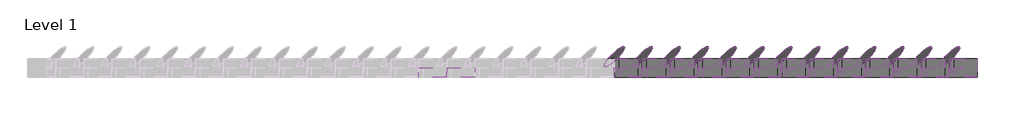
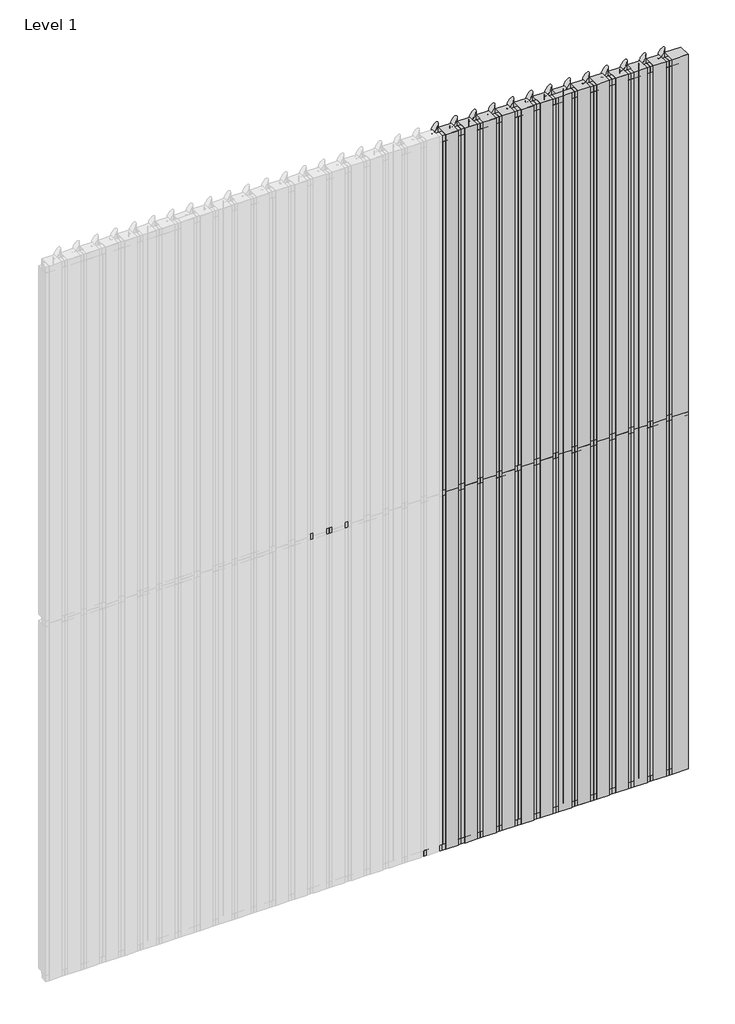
# One storey, part 3 of 3: 68 members, 52 plates.
"""IFC4 building model written with IfcOpenShell, lengths in millimetres."""

from ifc_helpers import new_model, si_unit, origin, place, context, project, spatial, transform, mapped, element, save
from components import rectangular_mullion_37c1fa86, rectangular_mullion_64cc6fdd, rectangular_mullion_6265e8b1, rectangular_mullion_eb4a5411, empty_system_panel_empty_d66da160, empty_system_panel_empty_f8daaecc, empty_system_panel_empty_64907904

model = new_model("IFC4")

# Units and contexts
model_context = context("Model", 3, world=origin())
ifc_project = project(units=[si_unit("LENGTHUNIT", "METRE", prefix="MILLI")], contexts=[model_context])

# Site, building, storey
site = spatial("IfcSite", under=ifc_project)
building = spatial("IfcBuilding", under=site)
storey = spatial("IfcBuildingStorey", under=building, Name="Level 1", Elevation=0.0)

# Members
placement = place(None, origin())
rectangular_mullion_shape = rectangular_mullion_37c1fa86(model_context)
element("IfcMember", 1, ObjectType="Rectangular Mullion : RSen_21_CWM_blade - 150 ellips - 45°_gen_duco projects", at=placement, inside=storey, context=model_context, shape_type="MappedRepresentation", body=[
    mapped(rectangular_mullion_shape, transform((5850.0, 3000.0, 0.0), x_axis=(-1.0, 0.0, 0.0), y_axis=(0.0, 1.0, 0.0), z_axis=(0.0, 0.0, -1.0))),
])
element("IfcMember", 2, ObjectType="Rectangular Mullion : RSen_21_CWM_blade - 150 ellips - 45°_gen_duco projects", at=placement, inside=storey, context=model_context, shape_type="MappedRepresentation", body=[
    mapped(rectangular_mullion_shape, transform((5700.0, 3000.0, 0.0), x_axis=(-1.0, 0.0, 0.0), y_axis=(0.0, 1.0, 0.0), z_axis=(0.0, 0.0, -1.0))),
])
element("IfcMember", 3, ObjectType="Rectangular Mullion : RSen_21_CWM_blade - 150 ellips - 45°_gen_duco projects", at=placement, inside=storey, context=model_context, shape_type="MappedRepresentation", body=[
    mapped(rectangular_mullion_shape, transform((5550.0, 3000.0, 0.0), x_axis=(-1.0, 0.0, 0.0), y_axis=(0.0, 1.0, 0.0), z_axis=(0.0, 0.0, -1.0))),
])
element("IfcMember", 4, ObjectType="Rectangular Mullion : RSen_21_CWM_blade - 150 ellips - 45°_gen_duco projects", at=placement, inside=storey, context=model_context, shape_type="MappedRepresentation", body=[
    mapped(rectangular_mullion_shape, transform((5400.0, 3000.0, 0.0), x_axis=(-1.0, 0.0, 0.0), y_axis=(0.0, 1.0, 0.0), z_axis=(0.0, 0.0, -1.0))),
])
element("IfcMember", 5, ObjectType="Rectangular Mullion : RSen_21_CWM_blade - 150 ellips - 45°_gen_duco projects", at=placement, inside=storey, context=model_context, shape_type="MappedRepresentation", body=[
    mapped(rectangular_mullion_shape, transform((5250.0, 3000.0, 0.0), x_axis=(-1.0, 0.0, 0.0), y_axis=(0.0, 1.0, 0.0), z_axis=(0.0, 0.0, -1.0))),
])
element("IfcMember", 6, ObjectType="Rectangular Mullion : RSen_21_CWM_blade - 150 ellips - 45°_gen_duco projects", at=placement, inside=storey, context=model_context, shape_type="MappedRepresentation", body=[
    mapped(rectangular_mullion_shape, transform((5100.0, 3000.0, 0.0), x_axis=(-1.0, 0.0, 0.0), y_axis=(0.0, 1.0, 0.0), z_axis=(0.0, 0.0, -1.0))),
])
element("IfcMember", 7, ObjectType="Rectangular Mullion : RSen_21_CWM_blade - 150 ellips - 45°_gen_duco projects", at=placement, inside=storey, context=model_context, shape_type="MappedRepresentation", body=[
    mapped(rectangular_mullion_shape, transform((4950.0, 3000.0, 0.0), x_axis=(-1.0, 0.0, 0.0), y_axis=(0.0, 1.0, 0.0), z_axis=(0.0, 0.0, -1.0))),
])
element("IfcMember", 8, ObjectType="Rectangular Mullion : RSen_21_CWM_blade - 150 ellips - 45°_gen_duco projects", at=placement, inside=storey, context=model_context, shape_type="MappedRepresentation", body=[
    mapped(rectangular_mullion_shape, transform((4800.0, 3000.0, 0.0), x_axis=(-1.0, 0.0, 0.0), y_axis=(0.0, 1.0, 0.0), z_axis=(0.0, 0.0, -1.0))),
])
element("IfcMember", 9, ObjectType="Rectangular Mullion : RSen_21_CWM_blade - 150 ellips - 45°_gen_duco projects", at=placement, inside=storey, context=model_context, shape_type="MappedRepresentation", body=[
    mapped(rectangular_mullion_shape, transform((4650.0, 3000.0, 0.0), x_axis=(-1.0, 0.0, 0.0), y_axis=(0.0, 1.0, 0.0), z_axis=(0.0, 0.0, -1.0))),
])
element("IfcMember", 10, ObjectType="Rectangular Mullion : RSen_21_CWM_blade - 150 ellips - 45°_gen_duco projects", at=placement, inside=storey, context=model_context, shape_type="MappedRepresentation", body=[
    mapped(rectangular_mullion_shape, transform((4500.0, 3000.0, 0.0), x_axis=(-1.0, 0.0, 0.0), y_axis=(0.0, 1.0, 0.0), z_axis=(0.0, 0.0, -1.0))),
])
element("IfcMember", 11, ObjectType="Rectangular Mullion : RSen_21_CWM_blade - 150 ellips - 45°_gen_duco projects", at=placement, inside=storey, context=model_context, shape_type="MappedRepresentation", body=[
    mapped(rectangular_mullion_shape, transform((4350.0, 3000.0, 0.0), x_axis=(-1.0, 0.0, 0.0), y_axis=(0.0, 1.0, 0.0), z_axis=(0.0, 0.0, -1.0))),
])
element("IfcMember", 12, ObjectType="Rectangular Mullion : RSen_21_CWM_blade - 150 ellips - 45°_gen_duco projects", at=placement, inside=storey, context=model_context, shape_type="MappedRepresentation", body=[
    mapped(rectangular_mullion_shape, transform((4200.0, 3000.0, 0.0), x_axis=(-1.0, 0.0, 0.0), y_axis=(0.0, 1.0, 0.0), z_axis=(0.0, 0.0, -1.0))),
])
element("IfcMember", 13, ObjectType="Rectangular Mullion : RSen_21_CWM_blade - 150 ellips - 45°_gen_duco projects", at=placement, inside=storey, context=model_context, shape_type="MappedRepresentation", body=[
    mapped(rectangular_mullion_shape, transform((4050.0, 3000.0, 0.0), x_axis=(-1.0, 0.0, 0.0), y_axis=(0.0, 1.0, 0.0), z_axis=(0.0, 0.0, -1.0))),
])
element("IfcMember", 14, ObjectType="Rectangular Mullion : RSen_21_CWM_blade - 150 ellips - 45°_gen_duco projects", at=placement, inside=storey, context=model_context, shape_type="MappedRepresentation", body=[
    mapped(rectangular_mullion_shape, transform((5850.0, 3000.0, 3000.0), x_axis=(-1.0, 0.0, 0.0), y_axis=(0.0, 1.0, 0.0), z_axis=(0.0, 0.0, -1.0))),
])
element("IfcMember", 15, ObjectType="Rectangular Mullion : RSen_21_CWM_blade - 150 ellips - 45°_gen_duco projects", at=placement, inside=storey, context=model_context, shape_type="MappedRepresentation", body=[
    mapped(rectangular_mullion_shape, transform((5700.0, 3000.0, 3000.0), x_axis=(-1.0, 0.0, 0.0), y_axis=(0.0, 1.0, 0.0), z_axis=(0.0, 0.0, -1.0))),
])
element("IfcMember", 16, ObjectType="Rectangular Mullion : RSen_21_CWM_blade - 150 ellips - 45°_gen_duco projects", at=placement, inside=storey, context=model_context, shape_type="MappedRepresentation", body=[
    mapped(rectangular_mullion_shape, transform((5550.0, 3000.0, 3000.0), x_axis=(-1.0, 0.0, 0.0), y_axis=(0.0, 1.0, 0.0), z_axis=(0.0, 0.0, -1.0))),
])
element("IfcMember", 17, ObjectType="Rectangular Mullion : RSen_21_CWM_blade - 150 ellips - 45°_gen_duco projects", at=placement, inside=storey, context=model_context, shape_type="MappedRepresentation", body=[
    mapped(rectangular_mullion_shape, transform((5400.0, 3000.0, 3000.0), x_axis=(-1.0, 0.0, 0.0), y_axis=(0.0, 1.0, 0.0), z_axis=(0.0, 0.0, -1.0))),
])
element("IfcMember", 18, ObjectType="Rectangular Mullion : RSen_21_CWM_blade - 150 ellips - 45°_gen_duco projects", at=placement, inside=storey, context=model_context, shape_type="MappedRepresentation", body=[
    mapped(rectangular_mullion_shape, transform((5250.0, 3000.0, 3000.0), x_axis=(-1.0, 0.0, 0.0), y_axis=(0.0, 1.0, 0.0), z_axis=(0.0, 0.0, -1.0))),
])
element("IfcMember", 19, ObjectType="Rectangular Mullion : RSen_21_CWM_blade - 150 ellips - 45°_gen_duco projects", at=placement, inside=storey, context=model_context, shape_type="MappedRepresentation", body=[
    mapped(rectangular_mullion_shape, transform((5100.0, 3000.0, 3000.0), x_axis=(-1.0, 0.0, 0.0), y_axis=(0.0, 1.0, 0.0), z_axis=(0.0, 0.0, -1.0))),
])
element("IfcMember", 20, ObjectType="Rectangular Mullion : RSen_21_CWM_blade - 150 ellips - 45°_gen_duco projects", at=placement, inside=storey, context=model_context, shape_type="MappedRepresentation", body=[
    mapped(rectangular_mullion_shape, transform((4950.0, 3000.0, 3000.0), x_axis=(-1.0, 0.0, 0.0), y_axis=(0.0, 1.0, 0.0), z_axis=(0.0, 0.0, -1.0))),
])
element("IfcMember", 21, ObjectType="Rectangular Mullion : RSen_21_CWM_blade - 150 ellips - 45°_gen_duco projects", at=placement, inside=storey, context=model_context, shape_type="MappedRepresentation", body=[
    mapped(rectangular_mullion_shape, transform((4800.0, 3000.0, 3000.0), x_axis=(-1.0, 0.0, 0.0), y_axis=(0.0, 1.0, 0.0), z_axis=(0.0, 0.0, -1.0))),
])
element("IfcMember", 22, ObjectType="Rectangular Mullion : RSen_21_CWM_blade - 150 ellips - 45°_gen_duco projects", at=placement, inside=storey, context=model_context, shape_type="MappedRepresentation", body=[
    mapped(rectangular_mullion_shape, transform((4650.0, 3000.0, 3000.0), x_axis=(-1.0, 0.0, 0.0), y_axis=(0.0, 1.0, 0.0), z_axis=(0.0, 0.0, -1.0))),
])
element("IfcMember", 23, ObjectType="Rectangular Mullion : RSen_21_CWM_blade - 150 ellips - 45°_gen_duco projects", at=placement, inside=storey, context=model_context, shape_type="MappedRepresentation", body=[
    mapped(rectangular_mullion_shape, transform((4500.0, 3000.0, 3000.0), x_axis=(-1.0, 0.0, 0.0), y_axis=(0.0, 1.0, 0.0), z_axis=(0.0, 0.0, -1.0))),
])
element("IfcMember", 24, ObjectType="Rectangular Mullion : RSen_21_CWM_blade - 150 ellips - 45°_gen_duco projects", at=placement, inside=storey, context=model_context, shape_type="MappedRepresentation", body=[
    mapped(rectangular_mullion_shape, transform((4350.0, 3000.0, 3000.0), x_axis=(-1.0, 0.0, 0.0), y_axis=(0.0, 1.0, 0.0), z_axis=(0.0, 0.0, -1.0))),
])
element("IfcMember", 25, ObjectType="Rectangular Mullion : RSen_21_CWM_blade - 150 ellips - 45°_gen_duco projects", at=placement, inside=storey, context=model_context, shape_type="MappedRepresentation", body=[
    mapped(rectangular_mullion_shape, transform((4200.0, 3000.0, 3000.0), x_axis=(-1.0, 0.0, 0.0), y_axis=(0.0, 1.0, 0.0), z_axis=(0.0, 0.0, -1.0))),
])
element("IfcMember", 26, ObjectType="Rectangular Mullion : RSen_21_CWM_blade - 150 ellips - 45°_gen_duco projects", at=placement, inside=storey, context=model_context, shape_type="MappedRepresentation", body=[
    mapped(rectangular_mullion_shape, transform((4050.0, 3000.0, 3000.0), x_axis=(-1.0, 0.0, 0.0), y_axis=(0.0, 1.0, 0.0), z_axis=(0.0, 0.0, -1.0))),
])
rectangular_mullion_2_shape = rectangular_mullion_64cc6fdd(model_context)
element("IfcMember", 27, ObjectType="Rectangular Mullion : RSen_21_CWM_support profile 50x50 - right_gen_duco projects", at=placement, inside=storey, context=model_context, shape_type="MappedRepresentation", body=[
    mapped(rectangular_mullion_2_shape, transform((6000.0, 3000.0, 0.0), x_axis=(0.0, 0.0, -1.0), y_axis=(0.0, 1.0, 0.0), z_axis=(1.0, 0.0, 0.0))),
])
rectangular_mullion_3_shape = rectangular_mullion_6265e8b1(model_context)
element("IfcMember", 28, ObjectType="Rectangular Mullion : RSen_21_CWM_support profile 50x50 - left_gen_duco projects", at=placement, inside=storey, context=model_context, shape_type="MappedRepresentation", body=[
    mapped(rectangular_mullion_3_shape, transform((5850.0, 3000.0, 6000.0), x_axis=(0.0, 0.0, 1.0), y_axis=(0.0, 1.0, 0.0), z_axis=(-1.0, 0.0, 0.0))),
])
element("IfcMember", 29, ObjectType="Rectangular Mullion : RSen_21_CWM_support profile 50x50 - left_gen_duco projects", at=placement, inside=storey, context=model_context, shape_type="MappedRepresentation", body=[
    mapped(rectangular_mullion_3_shape, transform((5700.0, 3000.0, 6000.0), x_axis=(0.0, 0.0, 1.0), y_axis=(0.0, 1.0, 0.0), z_axis=(-1.0, 0.0, 0.0))),
])
element("IfcMember", 30, ObjectType="Rectangular Mullion : RSen_21_CWM_support profile 50x50 - left_gen_duco projects", at=placement, inside=storey, context=model_context, shape_type="MappedRepresentation", body=[
    mapped(rectangular_mullion_3_shape, transform((5550.0, 3000.0, 6000.0), x_axis=(0.0, 0.0, 1.0), y_axis=(0.0, 1.0, 0.0), z_axis=(-1.0, 0.0, 0.0))),
])
element("IfcMember", 31, ObjectType="Rectangular Mullion : RSen_21_CWM_support profile 50x50 - left_gen_duco projects", at=placement, inside=storey, context=model_context, shape_type="MappedRepresentation", body=[
    mapped(rectangular_mullion_3_shape, transform((5400.0, 3000.0, 6000.0), x_axis=(0.0, 0.0, 1.0), y_axis=(0.0, 1.0, 0.0), z_axis=(-1.0, 0.0, 0.0))),
])
element("IfcMember", 32, ObjectType="Rectangular Mullion : RSen_21_CWM_support profile 50x50 - left_gen_duco projects", at=placement, inside=storey, context=model_context, shape_type="MappedRepresentation", body=[
    mapped(rectangular_mullion_3_shape, transform((5250.0, 3000.0, 6000.0), x_axis=(0.0, 0.0, 1.0), y_axis=(0.0, 1.0, 0.0), z_axis=(-1.0, 0.0, 0.0))),
])
element("IfcMember", 33, ObjectType="Rectangular Mullion : RSen_21_CWM_support profile 50x50 - left_gen_duco projects", at=placement, inside=storey, context=model_context, shape_type="MappedRepresentation", body=[
    mapped(rectangular_mullion_3_shape, transform((5100.0, 3000.0, 6000.0), x_axis=(0.0, 0.0, 1.0), y_axis=(0.0, 1.0, 0.0), z_axis=(-1.0, 0.0, 0.0))),
])
element("IfcMember", 34, ObjectType="Rectangular Mullion : RSen_21_CWM_support profile 50x50 - left_gen_duco projects", at=placement, inside=storey, context=model_context, shape_type="MappedRepresentation", body=[
    mapped(rectangular_mullion_3_shape, transform((4950.0, 3000.0, 6000.0), x_axis=(0.0, 0.0, 1.0), y_axis=(0.0, 1.0, 0.0), z_axis=(-1.0, 0.0, 0.0))),
])
element("IfcMember", 35, ObjectType="Rectangular Mullion : RSen_21_CWM_support profile 50x50 - left_gen_duco projects", at=placement, inside=storey, context=model_context, shape_type="MappedRepresentation", body=[
    mapped(rectangular_mullion_3_shape, transform((4800.0, 3000.0, 6000.0), x_axis=(0.0, 0.0, 1.0), y_axis=(0.0, 1.0, 0.0), z_axis=(-1.0, 0.0, 0.0))),
])
element("IfcMember", 36, ObjectType="Rectangular Mullion : RSen_21_CWM_support profile 50x50 - left_gen_duco projects", at=placement, inside=storey, context=model_context, shape_type="MappedRepresentation", body=[
    mapped(rectangular_mullion_3_shape, transform((4650.0, 3000.0, 6000.0), x_axis=(0.0, 0.0, 1.0), y_axis=(0.0, 1.0, 0.0), z_axis=(-1.0, 0.0, 0.0))),
])
element("IfcMember", 37, ObjectType="Rectangular Mullion : RSen_21_CWM_support profile 50x50 - left_gen_duco projects", at=placement, inside=storey, context=model_context, shape_type="MappedRepresentation", body=[
    mapped(rectangular_mullion_3_shape, transform((4500.0, 3000.0, 6000.0), x_axis=(0.0, 0.0, 1.0), y_axis=(0.0, 1.0, 0.0), z_axis=(-1.0, 0.0, 0.0))),
])
element("IfcMember", 38, ObjectType="Rectangular Mullion : RSen_21_CWM_support profile 50x50 - left_gen_duco projects", at=placement, inside=storey, context=model_context, shape_type="MappedRepresentation", body=[
    mapped(rectangular_mullion_3_shape, transform((4350.0, 3000.0, 6000.0), x_axis=(0.0, 0.0, 1.0), y_axis=(0.0, 1.0, 0.0), z_axis=(-1.0, 0.0, 0.0))),
])
element("IfcMember", 39, ObjectType="Rectangular Mullion : RSen_21_CWM_support profile 50x50 - left_gen_duco projects", at=placement, inside=storey, context=model_context, shape_type="MappedRepresentation", body=[
    mapped(rectangular_mullion_3_shape, transform((4200.0, 3000.0, 6000.0), x_axis=(0.0, 0.0, 1.0), y_axis=(0.0, 1.0, 0.0), z_axis=(-1.0, 0.0, 0.0))),
])
element("IfcMember", 40, ObjectType="Rectangular Mullion : RSen_21_CWM_support profile 50x50 - left_gen_duco projects", at=placement, inside=storey, context=model_context, shape_type="MappedRepresentation", body=[
    mapped(rectangular_mullion_3_shape, transform((4050.0, 3000.0, 6000.0), x_axis=(0.0, 0.0, 1.0), y_axis=(0.0, 1.0, 0.0), z_axis=(-1.0, 0.0, 0.0))),
])
element("IfcMember", 41, ObjectType="Rectangular Mullion : RSen_21_CWM_support profile 50x50 - right_gen_duco projects", at=placement, inside=storey, context=model_context, shape_type="MappedRepresentation", body=[
    mapped(rectangular_mullion_2_shape, transform((5850.0, 3000.0, 0.0), x_axis=(0.0, 0.0, -1.0), y_axis=(0.0, 1.0, 0.0), z_axis=(1.0, 0.0, 0.0))),
])
element("IfcMember", 42, ObjectType="Rectangular Mullion : RSen_21_CWM_support profile 50x50 - right_gen_duco projects", at=placement, inside=storey, context=model_context, shape_type="MappedRepresentation", body=[
    mapped(rectangular_mullion_2_shape, transform((5700.0, 3000.0, 0.0), x_axis=(0.0, 0.0, -1.0), y_axis=(0.0, 1.0, 0.0), z_axis=(1.0, 0.0, 0.0))),
])
element("IfcMember", 43, ObjectType="Rectangular Mullion : RSen_21_CWM_support profile 50x50 - right_gen_duco projects", at=placement, inside=storey, context=model_context, shape_type="MappedRepresentation", body=[
    mapped(rectangular_mullion_2_shape, transform((5550.0, 3000.0, 0.0), x_axis=(0.0, 0.0, -1.0), y_axis=(0.0, 1.0, 0.0), z_axis=(1.0, 0.0, 0.0))),
])
element("IfcMember", 44, ObjectType="Rectangular Mullion : RSen_21_CWM_support profile 50x50 - right_gen_duco projects", at=placement, inside=storey, context=model_context, shape_type="MappedRepresentation", body=[
    mapped(rectangular_mullion_2_shape, transform((5400.0, 3000.0, 0.0), x_axis=(0.0, 0.0, -1.0), y_axis=(0.0, 1.0, 0.0), z_axis=(1.0, 0.0, 0.0))),
])
element("IfcMember", 45, ObjectType="Rectangular Mullion : RSen_21_CWM_support profile 50x50 - right_gen_duco projects", at=placement, inside=storey, context=model_context, shape_type="MappedRepresentation", body=[
    mapped(rectangular_mullion_2_shape, transform((5250.0, 3000.0, 0.0), x_axis=(0.0, 0.0, -1.0), y_axis=(0.0, 1.0, 0.0), z_axis=(1.0, 0.0, 0.0))),
])
element("IfcMember", 46, ObjectType="Rectangular Mullion : RSen_21_CWM_support profile 50x50 - right_gen_duco projects", at=placement, inside=storey, context=model_context, shape_type="MappedRepresentation", body=[
    mapped(rectangular_mullion_2_shape, transform((5100.0, 3000.0, 0.0), x_axis=(0.0, 0.0, -1.0), y_axis=(0.0, 1.0, 0.0), z_axis=(1.0, 0.0, 0.0))),
])
element("IfcMember", 47, ObjectType="Rectangular Mullion : RSen_21_CWM_support profile 50x50 - right_gen_duco projects", at=placement, inside=storey, context=model_context, shape_type="MappedRepresentation", body=[
    mapped(rectangular_mullion_2_shape, transform((4950.0, 3000.0, 0.0), x_axis=(0.0, 0.0, -1.0), y_axis=(0.0, 1.0, 0.0), z_axis=(1.0, 0.0, 0.0))),
])
element("IfcMember", 48, ObjectType="Rectangular Mullion : RSen_21_CWM_support profile 50x50 - right_gen_duco projects", at=placement, inside=storey, context=model_context, shape_type="MappedRepresentation", body=[
    mapped(rectangular_mullion_2_shape, transform((4800.0, 3000.0, 0.0), x_axis=(0.0, 0.0, -1.0), y_axis=(0.0, 1.0, 0.0), z_axis=(1.0, 0.0, 0.0))),
])
element("IfcMember", 49, ObjectType="Rectangular Mullion : RSen_21_CWM_support profile 50x50 - right_gen_duco projects", at=placement, inside=storey, context=model_context, shape_type="MappedRepresentation", body=[
    mapped(rectangular_mullion_2_shape, transform((4650.0, 3000.0, 0.0), x_axis=(0.0, 0.0, -1.0), y_axis=(0.0, 1.0, 0.0), z_axis=(1.0, 0.0, 0.0))),
])
element("IfcMember", 50, ObjectType="Rectangular Mullion : RSen_21_CWM_support profile 50x50 - right_gen_duco projects", at=placement, inside=storey, context=model_context, shape_type="MappedRepresentation", body=[
    mapped(rectangular_mullion_2_shape, transform((4500.0, 3000.0, 0.0), x_axis=(0.0, 0.0, -1.0), y_axis=(0.0, 1.0, 0.0), z_axis=(1.0, 0.0, 0.0))),
])
element("IfcMember", 51, ObjectType="Rectangular Mullion : RSen_21_CWM_support profile 50x50 - right_gen_duco projects", at=placement, inside=storey, context=model_context, shape_type="MappedRepresentation", body=[
    mapped(rectangular_mullion_2_shape, transform((4350.0, 3000.0, 0.0), x_axis=(0.0, 0.0, -1.0), y_axis=(0.0, 1.0, 0.0), z_axis=(1.0, 0.0, 0.0))),
])
element("IfcMember", 52, ObjectType="Rectangular Mullion : RSen_21_CWM_support profile 50x50 - right_gen_duco projects", at=placement, inside=storey, context=model_context, shape_type="MappedRepresentation", body=[
    mapped(rectangular_mullion_2_shape, transform((4200.0, 3000.0, 0.0), x_axis=(0.0, 0.0, -1.0), y_axis=(0.0, 1.0, 0.0), z_axis=(1.0, 0.0, 0.0))),
])
element("IfcMember", 53, ObjectType="Rectangular Mullion : RSen_21_CWM_support profile 50x50 - right_gen_duco projects", at=placement, inside=storey, context=model_context, shape_type="MappedRepresentation", body=[
    mapped(rectangular_mullion_2_shape, transform((4050.0, 3000.0, 0.0), x_axis=(0.0, 0.0, -1.0), y_axis=(0.0, 1.0, 0.0), z_axis=(1.0, 0.0, 0.0))),
])
rectangular_mullion_4_shape = rectangular_mullion_eb4a5411(model_context)
element("IfcMember", 54, ObjectType="Rectangular Mullion : RSen_21_CWM_support profile 50x50_gen_duco projects", at=placement, inside=storey, context=model_context, shape_type="MappedRepresentation", body=[
    mapped(rectangular_mullion_4_shape, transform((5850.0, 3000.0, 3000.0), x_axis=(0.0, 0.0, 1.0), y_axis=(0.0, 1.0, 0.0), z_axis=(-1.0, 0.0, 0.0))),
])
element("IfcMember", 55, ObjectType="Rectangular Mullion : RSen_21_CWM_support profile 50x50_gen_duco projects", at=placement, inside=storey, context=model_context, shape_type="MappedRepresentation", body=[
    mapped(rectangular_mullion_4_shape, transform((5700.0, 3000.0, 3000.0), x_axis=(0.0, 0.0, 1.0), y_axis=(0.0, 1.0, 0.0), z_axis=(-1.0, 0.0, 0.0))),
])
element("IfcMember", 56, ObjectType="Rectangular Mullion : RSen_21_CWM_support profile 50x50_gen_duco projects", at=placement, inside=storey, context=model_context, shape_type="MappedRepresentation", body=[
    mapped(rectangular_mullion_4_shape, transform((5550.0, 3000.0, 3000.0), x_axis=(0.0, 0.0, 1.0), y_axis=(0.0, 1.0, 0.0), z_axis=(-1.0, 0.0, 0.0))),
])
element("IfcMember", 57, ObjectType="Rectangular Mullion : RSen_21_CWM_support profile 50x50_gen_duco projects", at=placement, inside=storey, context=model_context, shape_type="MappedRepresentation", body=[
    mapped(rectangular_mullion_4_shape, transform((5400.0, 3000.0, 3000.0), x_axis=(0.0, 0.0, 1.0), y_axis=(0.0, 1.0, 0.0), z_axis=(-1.0, 0.0, 0.0))),
])
element("IfcMember", 58, ObjectType="Rectangular Mullion : RSen_21_CWM_support profile 50x50_gen_duco projects", at=placement, inside=storey, context=model_context, shape_type="MappedRepresentation", body=[
    mapped(rectangular_mullion_4_shape, transform((5250.0, 3000.0, 3000.0), x_axis=(0.0, 0.0, 1.0), y_axis=(0.0, 1.0, 0.0), z_axis=(-1.0, 0.0, 0.0))),
])
element("IfcMember", 59, ObjectType="Rectangular Mullion : RSen_21_CWM_support profile 50x50_gen_duco projects", at=placement, inside=storey, context=model_context, shape_type="MappedRepresentation", body=[
    mapped(rectangular_mullion_4_shape, transform((5100.0, 3000.0, 3000.0), x_axis=(0.0, 0.0, 1.0), y_axis=(0.0, 1.0, 0.0), z_axis=(-1.0, 0.0, 0.0))),
])
element("IfcMember", 60, ObjectType="Rectangular Mullion : RSen_21_CWM_support profile 50x50_gen_duco projects", at=placement, inside=storey, context=model_context, shape_type="MappedRepresentation", body=[
    mapped(rectangular_mullion_4_shape, transform((4950.0, 3000.0, 3000.0), x_axis=(0.0, 0.0, 1.0), y_axis=(0.0, 1.0, 0.0), z_axis=(-1.0, 0.0, 0.0))),
])
element("IfcMember", 61, ObjectType="Rectangular Mullion : RSen_21_CWM_support profile 50x50_gen_duco projects", at=placement, inside=storey, context=model_context, shape_type="MappedRepresentation", body=[
    mapped(rectangular_mullion_4_shape, transform((4800.0, 3000.0, 3000.0), x_axis=(0.0, 0.0, 1.0), y_axis=(0.0, 1.0, 0.0), z_axis=(-1.0, 0.0, 0.0))),
])
element("IfcMember", 62, ObjectType="Rectangular Mullion : RSen_21_CWM_support profile 50x50_gen_duco projects", at=placement, inside=storey, context=model_context, shape_type="MappedRepresentation", body=[
    mapped(rectangular_mullion_4_shape, transform((4650.0, 3000.0, 3000.0), x_axis=(0.0, 0.0, 1.0), y_axis=(0.0, 1.0, 0.0), z_axis=(-1.0, 0.0, 0.0))),
])
element("IfcMember", 63, ObjectType="Rectangular Mullion : RSen_21_CWM_support profile 50x50_gen_duco projects", at=placement, inside=storey, context=model_context, shape_type="MappedRepresentation", body=[
    mapped(rectangular_mullion_4_shape, transform((4500.0, 3000.0, 3000.0), x_axis=(0.0, 0.0, 1.0), y_axis=(0.0, 1.0, 0.0), z_axis=(-1.0, 0.0, 0.0))),
])
element("IfcMember", 64, ObjectType="Rectangular Mullion : RSen_21_CWM_support profile 50x50_gen_duco projects", at=placement, inside=storey, context=model_context, shape_type="MappedRepresentation", body=[
    mapped(rectangular_mullion_4_shape, transform((4350.0, 3000.0, 3000.0), x_axis=(0.0, 0.0, 1.0), y_axis=(0.0, 1.0, 0.0), z_axis=(-1.0, 0.0, 0.0))),
])
element("IfcMember", 65, ObjectType="Rectangular Mullion : RSen_21_CWM_support profile 50x50_gen_duco projects", at=placement, inside=storey, context=model_context, shape_type="MappedRepresentation", body=[
    mapped(rectangular_mullion_4_shape, transform((4200.0, 3000.0, 3000.0), x_axis=(0.0, 0.0, 1.0), y_axis=(0.0, 1.0, 0.0), z_axis=(-1.0, 0.0, 0.0))),
])
element("IfcMember", 66, ObjectType="Rectangular Mullion : RSen_21_CWM_support profile 50x50_gen_duco projects", at=placement, inside=storey, context=model_context, shape_type="MappedRepresentation", body=[
    mapped(rectangular_mullion_4_shape, transform((4050.0, 3000.0, 3000.0), x_axis=(0.0, 0.0, 1.0), y_axis=(0.0, 1.0, 0.0), z_axis=(-1.0, 0.0, 0.0))),
])
element("IfcMember", 67, ObjectType="Rectangular Mullion : RSen_21_CWM_support profile 50x50_gen_duco projects", at=placement, inside=storey, context=model_context, shape_type="MappedRepresentation", body=[
    mapped(rectangular_mullion_4_shape, transform((3150.0, 3000.0, 3000.0), x_axis=(0.0, 0.0, 1.0), y_axis=(0.0, 1.0, 0.0), z_axis=(-1.0, 0.0, 0.0))),
])
element("IfcMember", 68, ObjectType="Rectangular Mullion : RSen_21_CWM_support profile 50x50_gen_duco projects", at=placement, inside=storey, context=model_context, shape_type="MappedRepresentation", body=[
    mapped(rectangular_mullion_4_shape, transform((3000.0, 3000.0, 3000.0), x_axis=(0.0, 0.0, 1.0), y_axis=(0.0, 1.0, 0.0), z_axis=(-1.0, 0.0, 0.0))),
])

# Plates
empty_system_panel_empty_shape = empty_system_panel_empty_d66da160(model_context)
element("IfcPlate", 69, ObjectType="Empty System Panel : Empty", at=placement, inside=storey, context=model_context, shape_type="MappedRepresentation", body=[
    mapped(empty_system_panel_empty_shape, transform((5937.3743687, 3000.0, 0.0), x_axis=(-1.0, 0.0, 0.0), y_axis=(0.0, -1.0, 0.0), z_axis=(0.0, 0.0, 1.0))),
])
element("IfcPlate", 70, ObjectType="Empty System Panel : Empty", at=placement, inside=storey, context=model_context, shape_type="MappedRepresentation", body=[
    mapped(empty_system_panel_empty_shape, transform((5937.3743687, 3000.0, 3000.0), x_axis=(-1.0, 0.0, 0.0), y_axis=(0.0, -1.0, 0.0), z_axis=(0.0, 0.0, 1.0))),
])
empty_system_panel_empty_2_shape = empty_system_panel_empty_f8daaecc(model_context)
element("IfcPlate", 71, ObjectType="Empty System Panel : Empty", at=placement, inside=storey, context=model_context, shape_type="MappedRepresentation", body=[
    mapped(empty_system_panel_empty_2_shape, transform((5775.0, 3000.0, 0.0), x_axis=(-1.0, 0.0, 0.0), y_axis=(0.0, -1.0, 0.0), z_axis=(0.0, 0.0, 1.0))),
])
element("IfcPlate", 72, ObjectType="Empty System Panel : Empty", at=placement, inside=storey, context=model_context, shape_type="MappedRepresentation", body=[
    mapped(empty_system_panel_empty_2_shape, transform((5625.0, 3000.0, 0.0), x_axis=(-1.0, 0.0, 0.0), y_axis=(0.0, -1.0, 0.0), z_axis=(0.0, 0.0, 1.0))),
])
element("IfcPlate", 73, ObjectType="Empty System Panel : Empty", at=placement, inside=storey, context=model_context, shape_type="MappedRepresentation", body=[
    mapped(empty_system_panel_empty_2_shape, transform((5475.0, 3000.0, 0.0), x_axis=(-1.0, 0.0, 0.0), y_axis=(0.0, -1.0, 0.0), z_axis=(0.0, 0.0, 1.0))),
])
element("IfcPlate", 74, ObjectType="Empty System Panel : Empty", at=placement, inside=storey, context=model_context, shape_type="MappedRepresentation", body=[
    mapped(empty_system_panel_empty_2_shape, transform((5325.0, 3000.0, 0.0), x_axis=(-1.0, 0.0, 0.0), y_axis=(0.0, -1.0, 0.0), z_axis=(0.0, 0.0, 1.0))),
])
element("IfcPlate", 75, ObjectType="Empty System Panel : Empty", at=placement, inside=storey, context=model_context, shape_type="MappedRepresentation", body=[
    mapped(empty_system_panel_empty_2_shape, transform((5175.0, 3000.0, 0.0), x_axis=(-1.0, 0.0, 0.0), y_axis=(0.0, -1.0, 0.0), z_axis=(0.0, 0.0, 1.0))),
])
element("IfcPlate", 76, ObjectType="Empty System Panel : Empty", at=placement, inside=storey, context=model_context, shape_type="MappedRepresentation", body=[
    mapped(empty_system_panel_empty_2_shape, transform((5025.0, 3000.0, 0.0), x_axis=(-1.0, 0.0, 0.0), y_axis=(0.0, -1.0, 0.0), z_axis=(0.0, 0.0, 1.0))),
])
element("IfcPlate", 77, ObjectType="Empty System Panel : Empty", at=placement, inside=storey, context=model_context, shape_type="MappedRepresentation", body=[
    mapped(empty_system_panel_empty_2_shape, transform((4875.0, 3000.0, 0.0), x_axis=(-1.0, 0.0, 0.0), y_axis=(0.0, -1.0, 0.0), z_axis=(0.0, 0.0, 1.0))),
])
element("IfcPlate", 78, ObjectType="Empty System Panel : Empty", at=placement, inside=storey, context=model_context, shape_type="MappedRepresentation", body=[
    mapped(empty_system_panel_empty_2_shape, transform((4725.0, 3000.0, 0.0), x_axis=(-1.0, 0.0, 0.0), y_axis=(0.0, -1.0, 0.0), z_axis=(0.0, 0.0, 1.0))),
])
element("IfcPlate", 79, ObjectType="Empty System Panel : Empty", at=placement, inside=storey, context=model_context, shape_type="MappedRepresentation", body=[
    mapped(empty_system_panel_empty_2_shape, transform((4575.0, 3000.0, 0.0), x_axis=(-1.0, 0.0, 0.0), y_axis=(0.0, -1.0, 0.0), z_axis=(0.0, 0.0, 1.0))),
])
element("IfcPlate", 80, ObjectType="Empty System Panel : Empty", at=placement, inside=storey, context=model_context, shape_type="MappedRepresentation", body=[
    mapped(empty_system_panel_empty_2_shape, transform((4425.0, 3000.0, 0.0), x_axis=(-1.0, 0.0, 0.0), y_axis=(0.0, -1.0, 0.0), z_axis=(0.0, 0.0, 1.0))),
])
element("IfcPlate", 81, ObjectType="Empty System Panel : Empty", at=placement, inside=storey, context=model_context, shape_type="MappedRepresentation", body=[
    mapped(empty_system_panel_empty_2_shape, transform((4275.0, 3000.0, 0.0), x_axis=(-1.0, 0.0, 0.0), y_axis=(0.0, -1.0, 0.0), z_axis=(0.0, 0.0, 1.0))),
])
element("IfcPlate", 82, ObjectType="Empty System Panel : Empty", at=placement, inside=storey, context=model_context, shape_type="MappedRepresentation", body=[
    mapped(empty_system_panel_empty_2_shape, transform((4125.0, 3000.0, 0.0), x_axis=(-1.0, 0.0, 0.0), y_axis=(0.0, -1.0, 0.0), z_axis=(0.0, 0.0, 1.0))),
])
element("IfcPlate", 83, ObjectType="Empty System Panel : Empty", at=placement, inside=storey, context=model_context, shape_type="MappedRepresentation", body=[
    mapped(empty_system_panel_empty_2_shape, transform((5775.0, 3000.0, 3000.0), x_axis=(-1.0, 0.0, 0.0), y_axis=(0.0, -1.0, 0.0), z_axis=(0.0, 0.0, 1.0))),
])
element("IfcPlate", 84, ObjectType="Empty System Panel : Empty", at=placement, inside=storey, context=model_context, shape_type="MappedRepresentation", body=[
    mapped(empty_system_panel_empty_2_shape, transform((5625.0, 3000.0, 3000.0), x_axis=(-1.0, 0.0, 0.0), y_axis=(0.0, -1.0, 0.0), z_axis=(0.0, 0.0, 1.0))),
])
element("IfcPlate", 85, ObjectType="Empty System Panel : Empty", at=placement, inside=storey, context=model_context, shape_type="MappedRepresentation", body=[
    mapped(empty_system_panel_empty_2_shape, transform((5475.0, 3000.0, 3000.0), x_axis=(-1.0, 0.0, 0.0), y_axis=(0.0, -1.0, 0.0), z_axis=(0.0, 0.0, 1.0))),
])
element("IfcPlate", 86, ObjectType="Empty System Panel : Empty", at=placement, inside=storey, context=model_context, shape_type="MappedRepresentation", body=[
    mapped(empty_system_panel_empty_2_shape, transform((5325.0, 3000.0, 3000.0), x_axis=(-1.0, 0.0, 0.0), y_axis=(0.0, -1.0, 0.0), z_axis=(0.0, 0.0, 1.0))),
])
element("IfcPlate", 87, ObjectType="Empty System Panel : Empty", at=placement, inside=storey, context=model_context, shape_type="MappedRepresentation", body=[
    mapped(empty_system_panel_empty_2_shape, transform((5175.0, 3000.0, 3000.0), x_axis=(-1.0, 0.0, 0.0), y_axis=(0.0, -1.0, 0.0), z_axis=(0.0, 0.0, 1.0))),
])
element("IfcPlate", 88, ObjectType="Empty System Panel : Empty", at=placement, inside=storey, context=model_context, shape_type="MappedRepresentation", body=[
    mapped(empty_system_panel_empty_2_shape, transform((5025.0, 3000.0, 3000.0), x_axis=(-1.0, 0.0, 0.0), y_axis=(0.0, -1.0, 0.0), z_axis=(0.0, 0.0, 1.0))),
])
element("IfcPlate", 89, ObjectType="Empty System Panel : Empty", at=placement, inside=storey, context=model_context, shape_type="MappedRepresentation", body=[
    mapped(empty_system_panel_empty_2_shape, transform((4875.0, 3000.0, 3000.0), x_axis=(-1.0, 0.0, 0.0), y_axis=(0.0, -1.0, 0.0), z_axis=(0.0, 0.0, 1.0))),
])
element("IfcPlate", 90, ObjectType="Empty System Panel : Empty", at=placement, inside=storey, context=model_context, shape_type="MappedRepresentation", body=[
    mapped(empty_system_panel_empty_2_shape, transform((4725.0, 3000.0, 3000.0), x_axis=(-1.0, 0.0, 0.0), y_axis=(0.0, -1.0, 0.0), z_axis=(0.0, 0.0, 1.0))),
])
element("IfcPlate", 91, ObjectType="Empty System Panel : Empty", at=placement, inside=storey, context=model_context, shape_type="MappedRepresentation", body=[
    mapped(empty_system_panel_empty_2_shape, transform((4575.0, 3000.0, 3000.0), x_axis=(-1.0, 0.0, 0.0), y_axis=(0.0, -1.0, 0.0), z_axis=(0.0, 0.0, 1.0))),
])
element("IfcPlate", 92, ObjectType="Empty System Panel : Empty", at=placement, inside=storey, context=model_context, shape_type="MappedRepresentation", body=[
    mapped(empty_system_panel_empty_2_shape, transform((4425.0, 3000.0, 3000.0), x_axis=(-1.0, 0.0, 0.0), y_axis=(0.0, -1.0, 0.0), z_axis=(0.0, 0.0, 1.0))),
])
element("IfcPlate", 93, ObjectType="Empty System Panel : Empty", at=placement, inside=storey, context=model_context, shape_type="MappedRepresentation", body=[
    mapped(empty_system_panel_empty_2_shape, transform((4275.0, 3000.0, 3000.0), x_axis=(-1.0, 0.0, 0.0), y_axis=(0.0, -1.0, 0.0), z_axis=(0.0, 0.0, 1.0))),
])
element("IfcPlate", 94, ObjectType="Empty System Panel : Empty", at=placement, inside=storey, context=model_context, shape_type="MappedRepresentation", body=[
    mapped(empty_system_panel_empty_2_shape, transform((4125.0, 3000.0, 3000.0), x_axis=(-1.0, 0.0, 0.0), y_axis=(0.0, -1.0, 0.0), z_axis=(0.0, 0.0, 1.0))),
])
empty_system_panel_empty_3_shape = empty_system_panel_empty_64907904(model_context)
element("IfcPlate", 95, ObjectType="Empty System Panel : Empty", at=placement, inside=storey, context=model_context, shape_type="MappedRepresentation", body=[
    mapped(empty_system_panel_empty_3_shape, transform((5925.0, 3000.0, 50.0), x_axis=(-1.0, 0.0, 0.0), y_axis=(0.0, -1.0, 0.0), z_axis=(0.0, 0.0, 1.0))),
])
element("IfcPlate", 96, ObjectType="Empty System Panel : Empty", at=placement, inside=storey, context=model_context, shape_type="MappedRepresentation", body=[
    mapped(empty_system_panel_empty_3_shape, transform((5775.0, 3000.0, 50.0), x_axis=(-1.0, 0.0, 0.0), y_axis=(0.0, -1.0, 0.0), z_axis=(0.0, 0.0, 1.0))),
])
element("IfcPlate", 97, ObjectType="Empty System Panel : Empty", at=placement, inside=storey, context=model_context, shape_type="MappedRepresentation", body=[
    mapped(empty_system_panel_empty_3_shape, transform((5625.0, 3000.0, 50.0), x_axis=(-1.0, 0.0, 0.0), y_axis=(0.0, -1.0, 0.0), z_axis=(0.0, 0.0, 1.0))),
])
element("IfcPlate", 98, ObjectType="Empty System Panel : Empty", at=placement, inside=storey, context=model_context, shape_type="MappedRepresentation", body=[
    mapped(empty_system_panel_empty_3_shape, transform((5475.0, 3000.0, 50.0), x_axis=(-1.0, 0.0, 0.0), y_axis=(0.0, -1.0, 0.0), z_axis=(0.0, 0.0, 1.0))),
])
element("IfcPlate", 99, ObjectType="Empty System Panel : Empty", at=placement, inside=storey, context=model_context, shape_type="MappedRepresentation", body=[
    mapped(empty_system_panel_empty_3_shape, transform((5325.0, 3000.0, 50.0), x_axis=(-1.0, 0.0, 0.0), y_axis=(0.0, -1.0, 0.0), z_axis=(0.0, 0.0, 1.0))),
])
element("IfcPlate", 100, ObjectType="Empty System Panel : Empty", at=placement, inside=storey, context=model_context, shape_type="MappedRepresentation", body=[
    mapped(empty_system_panel_empty_3_shape, transform((5175.0, 3000.0, 50.0), x_axis=(-1.0, 0.0, 0.0), y_axis=(0.0, -1.0, 0.0), z_axis=(0.0, 0.0, 1.0))),
])
element("IfcPlate", 101, ObjectType="Empty System Panel : Empty", at=placement, inside=storey, context=model_context, shape_type="MappedRepresentation", body=[
    mapped(empty_system_panel_empty_3_shape, transform((5025.0, 3000.0, 50.0), x_axis=(-1.0, 0.0, 0.0), y_axis=(0.0, -1.0, 0.0), z_axis=(0.0, 0.0, 1.0))),
])
element("IfcPlate", 102, ObjectType="Empty System Panel : Empty", at=placement, inside=storey, context=model_context, shape_type="MappedRepresentation", body=[
    mapped(empty_system_panel_empty_3_shape, transform((4875.0, 3000.0, 50.0), x_axis=(-1.0, 0.0, 0.0), y_axis=(0.0, -1.0, 0.0), z_axis=(0.0, 0.0, 1.0))),
])
element("IfcPlate", 103, ObjectType="Empty System Panel : Empty", at=placement, inside=storey, context=model_context, shape_type="MappedRepresentation", body=[
    mapped(empty_system_panel_empty_3_shape, transform((4725.0, 3000.0, 50.0), x_axis=(-1.0, 0.0, 0.0), y_axis=(0.0, -1.0, 0.0), z_axis=(0.0, 0.0, 1.0))),
])
element("IfcPlate", 104, ObjectType="Empty System Panel : Empty", at=placement, inside=storey, context=model_context, shape_type="MappedRepresentation", body=[
    mapped(empty_system_panel_empty_3_shape, transform((4575.0, 3000.0, 50.0), x_axis=(-1.0, 0.0, 0.0), y_axis=(0.0, -1.0, 0.0), z_axis=(0.0, 0.0, 1.0))),
])
element("IfcPlate", 105, ObjectType="Empty System Panel : Empty", at=placement, inside=storey, context=model_context, shape_type="MappedRepresentation", body=[
    mapped(empty_system_panel_empty_3_shape, transform((4425.0, 3000.0, 50.0), x_axis=(-1.0, 0.0, 0.0), y_axis=(0.0, -1.0, 0.0), z_axis=(0.0, 0.0, 1.0))),
])
element("IfcPlate", 106, ObjectType="Empty System Panel : Empty", at=placement, inside=storey, context=model_context, shape_type="MappedRepresentation", body=[
    mapped(empty_system_panel_empty_3_shape, transform((4275.0, 3000.0, 50.0), x_axis=(-1.0, 0.0, 0.0), y_axis=(0.0, -1.0, 0.0), z_axis=(0.0, 0.0, 1.0))),
])
element("IfcPlate", 107, ObjectType="Empty System Panel : Empty", at=placement, inside=storey, context=model_context, shape_type="MappedRepresentation", body=[
    mapped(empty_system_panel_empty_3_shape, transform((4125.0, 3000.0, 50.0), x_axis=(-1.0, 0.0, 0.0), y_axis=(0.0, -1.0, 0.0), z_axis=(0.0, 0.0, 1.0))),
])
element("IfcPlate", 108, ObjectType="Empty System Panel : Empty", at=placement, inside=storey, context=model_context, shape_type="MappedRepresentation", body=[
    mapped(empty_system_panel_empty_3_shape, transform((5925.0, 3000.0, 3025.0), x_axis=(-1.0, 0.0, 0.0), y_axis=(0.0, -1.0, 0.0), z_axis=(0.0, 0.0, 1.0))),
])
element("IfcPlate", 109, ObjectType="Empty System Panel : Empty", at=placement, inside=storey, context=model_context, shape_type="MappedRepresentation", body=[
    mapped(empty_system_panel_empty_3_shape, transform((5775.0, 3000.0, 3025.0), x_axis=(-1.0, 0.0, 0.0), y_axis=(0.0, -1.0, 0.0), z_axis=(0.0, 0.0, 1.0))),
])
element("IfcPlate", 110, ObjectType="Empty System Panel : Empty", at=placement, inside=storey, context=model_context, shape_type="MappedRepresentation", body=[
    mapped(empty_system_panel_empty_3_shape, transform((5625.0, 3000.0, 3025.0), x_axis=(-1.0, 0.0, 0.0), y_axis=(0.0, -1.0, 0.0), z_axis=(0.0, 0.0, 1.0))),
])
element("IfcPlate", 111, ObjectType="Empty System Panel : Empty", at=placement, inside=storey, context=model_context, shape_type="MappedRepresentation", body=[
    mapped(empty_system_panel_empty_3_shape, transform((5475.0, 3000.0, 3025.0), x_axis=(-1.0, 0.0, 0.0), y_axis=(0.0, -1.0, 0.0), z_axis=(0.0, 0.0, 1.0))),
])
element("IfcPlate", 112, ObjectType="Empty System Panel : Empty", at=placement, inside=storey, context=model_context, shape_type="MappedRepresentation", body=[
    mapped(empty_system_panel_empty_3_shape, transform((5325.0, 3000.0, 3025.0), x_axis=(-1.0, 0.0, 0.0), y_axis=(0.0, -1.0, 0.0), z_axis=(0.0, 0.0, 1.0))),
])
element("IfcPlate", 113, ObjectType="Empty System Panel : Empty", at=placement, inside=storey, context=model_context, shape_type="MappedRepresentation", body=[
    mapped(empty_system_panel_empty_3_shape, transform((5175.0, 3000.0, 3025.0), x_axis=(-1.0, 0.0, 0.0), y_axis=(0.0, -1.0, 0.0), z_axis=(0.0, 0.0, 1.0))),
])
element("IfcPlate", 114, ObjectType="Empty System Panel : Empty", at=placement, inside=storey, context=model_context, shape_type="MappedRepresentation", body=[
    mapped(empty_system_panel_empty_3_shape, transform((5025.0, 3000.0, 3025.0), x_axis=(-1.0, 0.0, 0.0), y_axis=(0.0, -1.0, 0.0), z_axis=(0.0, 0.0, 1.0))),
])
element("IfcPlate", 115, ObjectType="Empty System Panel : Empty", at=placement, inside=storey, context=model_context, shape_type="MappedRepresentation", body=[
    mapped(empty_system_panel_empty_3_shape, transform((4875.0, 3000.0, 3025.0), x_axis=(-1.0, 0.0, 0.0), y_axis=(0.0, -1.0, 0.0), z_axis=(0.0, 0.0, 1.0))),
])
element("IfcPlate", 116, ObjectType="Empty System Panel : Empty", at=placement, inside=storey, context=model_context, shape_type="MappedRepresentation", body=[
    mapped(empty_system_panel_empty_3_shape, transform((4725.0, 3000.0, 3025.0), x_axis=(-1.0, 0.0, 0.0), y_axis=(0.0, -1.0, 0.0), z_axis=(0.0, 0.0, 1.0))),
])
element("IfcPlate", 117, ObjectType="Empty System Panel : Empty", at=placement, inside=storey, context=model_context, shape_type="MappedRepresentation", body=[
    mapped(empty_system_panel_empty_3_shape, transform((4575.0, 3000.0, 3025.0), x_axis=(-1.0, 0.0, 0.0), y_axis=(0.0, -1.0, 0.0), z_axis=(0.0, 0.0, 1.0))),
])
element("IfcPlate", 118, ObjectType="Empty System Panel : Empty", at=placement, inside=storey, context=model_context, shape_type="MappedRepresentation", body=[
    mapped(empty_system_panel_empty_3_shape, transform((4425.0, 3000.0, 3025.0), x_axis=(-1.0, 0.0, 0.0), y_axis=(0.0, -1.0, 0.0), z_axis=(0.0, 0.0, 1.0))),
])
element("IfcPlate", 119, ObjectType="Empty System Panel : Empty", at=placement, inside=storey, context=model_context, shape_type="MappedRepresentation", body=[
    mapped(empty_system_panel_empty_3_shape, transform((4275.0, 3000.0, 3025.0), x_axis=(-1.0, 0.0, 0.0), y_axis=(0.0, -1.0, 0.0), z_axis=(0.0, 0.0, 1.0))),
])
element("IfcPlate", 120, ObjectType="Empty System Panel : Empty", at=placement, inside=storey, context=model_context, shape_type="MappedRepresentation", body=[
    mapped(empty_system_panel_empty_3_shape, transform((4125.0, 3000.0, 3025.0), x_axis=(-1.0, 0.0, 0.0), y_axis=(0.0, -1.0, 0.0), z_axis=(0.0, 0.0, 1.0))),
])

save(model, "model.ifc")
